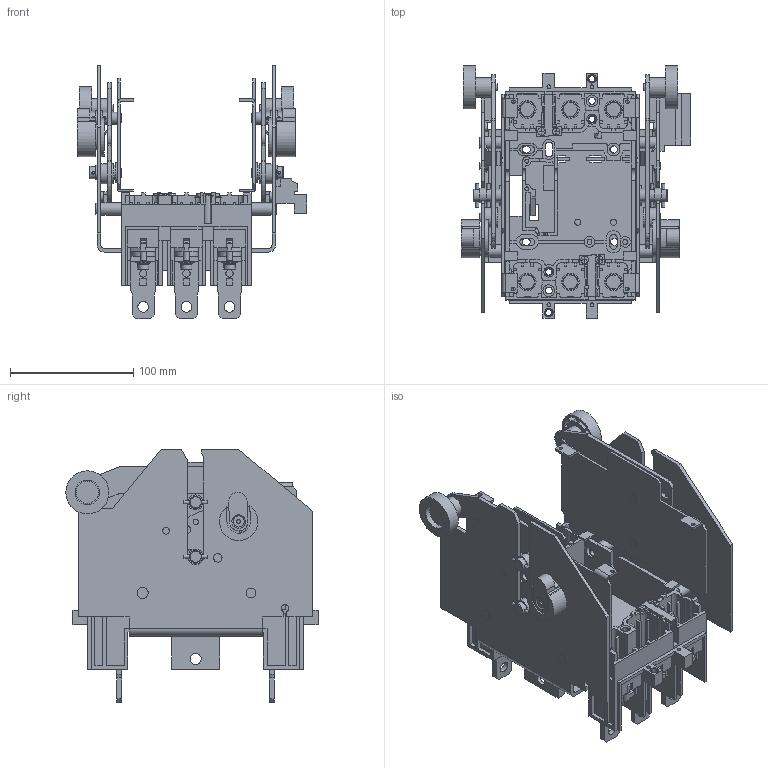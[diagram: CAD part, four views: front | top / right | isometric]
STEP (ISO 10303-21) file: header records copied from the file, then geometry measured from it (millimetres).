
FILE_DESCRIPTION(/* description */ (''),/* implementation_level */ '2;1');
FILE_NAME(/* name */ 'NSX250 插入式 板后型.stp',/* time_stamp */ '2024-03-07T15:58:04+08:00',/* author */ (''),/* organization */ (''),/* preprocessor_version */ 'ST-DEVELOPER v16',/* originating_system */ 'SIEMENS PLM Software NX 10.0',/* authorisation */ '');
FILE_SCHEMA (('AUTOMOTIVE_DESIGN { 1 0 10303 214 3 1 1 1 }'));
Products named in the file (1): midi1FE4444Ayatg
Bounding box: 185.9 x 204.8 x 205.5 mm (x, y, z)
Volume: 634808.4 mm3; surface area: 433980.1 mm2
Topology: 1 solids, 18 shells, 2603 faces, 7223 edges, 4744 vertices
Faces by surface type: plane 1890, cylinder 609, torus 64, extrusion 18, cone 16, sphere 4, bspline 2
Full cylindrical faces by diameter (mm): 2.5 x16, 3 x14, 3.2 x2, 3.6 x4, 4 x4, 4.322 x2, 4.398 x2, 5 x10, 5.5 x4, 5.9 x2, 6 x12, 6.2 x9, 6.5 x8, 7 x2, 7.2 x4, 7.4 x2, 8 x4, 8.5 x1, 8.7 x6, 9 x16, 9.2 x2, 9.5 x8, 10 x14, 11 x2, 12 x8, 14.2 x12, 16 x8, 18 x2, 20 x2, 21 x2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
Entity records: 89519 total; most frequent: CARTESIAN_POINT 16081, ORIENTED_EDGE 13796, DIRECTION 13459, EDGE_CURVE 6898, VECTOR 5241, LINE 5223, VERTEX_POINT 4641, AXIS2_PLACEMENT_3D 4109
